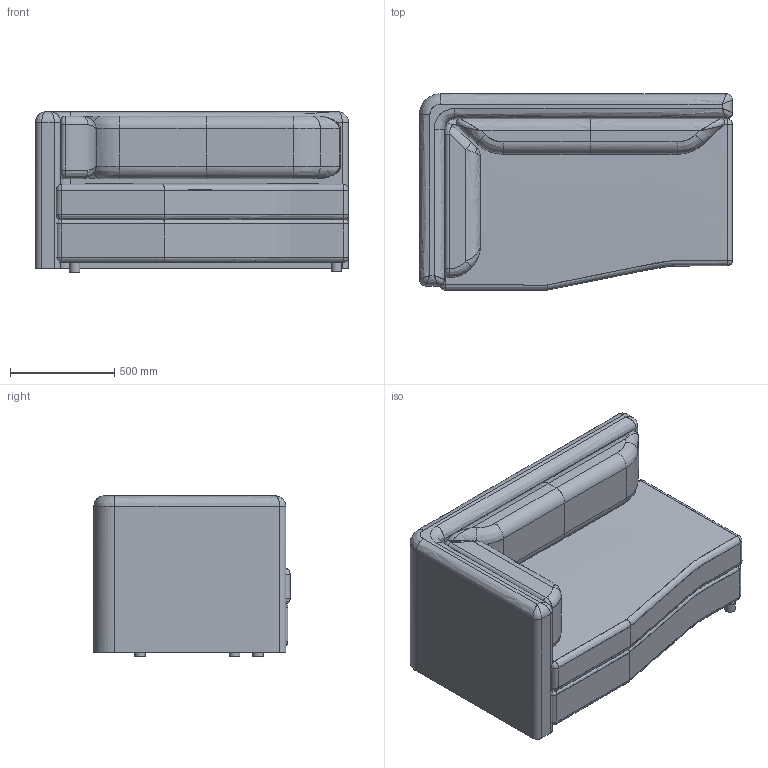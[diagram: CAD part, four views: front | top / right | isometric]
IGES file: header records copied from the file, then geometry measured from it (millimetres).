
Global section: file name: C:\Users\market02\Desktop\RYAN\VIRGULE\FVIRGCA150H_DEMI SOFA_HALF SOFA_VIRGULE\FVIRGCA150H_DEMI SOFA_HALF SOFA_VIRGULE.igs; native system: Rhinoceros ( Dec 14 2021 ); preprocessor: Trout Lake IGES 012 Dec 14 2021; date: 220919.075430; units: millimetre
Bounding box: 1500 x 940.01 x 767.38 mm (x, y, z)
Surface area: 11486555.1 mm2 (no closed solid volume)
Topology: 0 solids, 0 shells, 166 faces, 1444 edges, 1426 vertices
Faces by surface type: bspline 166
